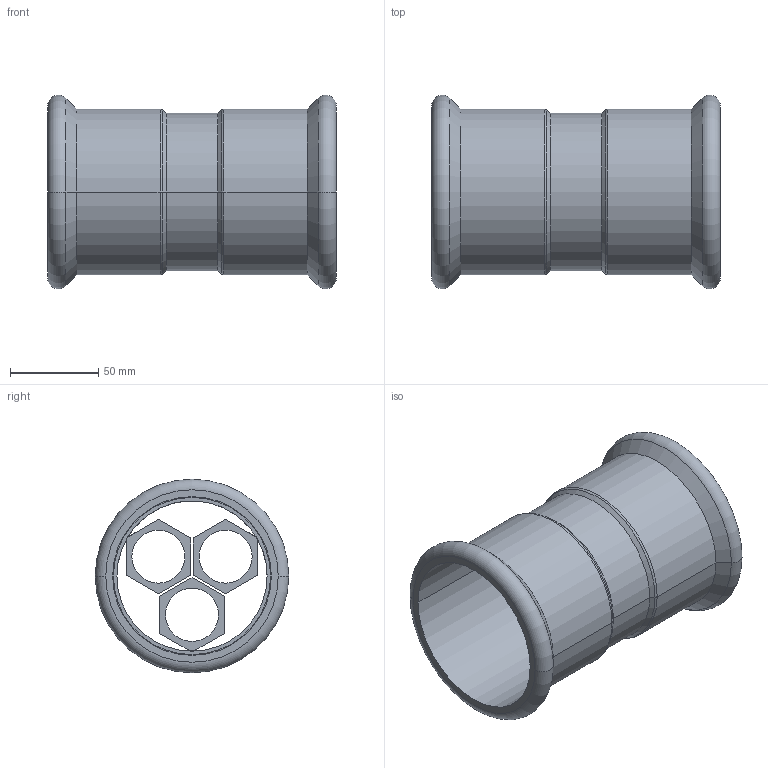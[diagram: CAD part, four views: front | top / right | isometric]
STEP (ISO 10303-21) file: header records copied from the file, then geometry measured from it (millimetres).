
FILE_DESCRIPTION(('OneSpaceDesigner STEP Export'),'2;1');
FILE_NAME('R2701 89x89.stp','2010-06-08T13:25:45',(''),(''),'OneSpace Designer STEP processor for AP214 (Solid Model)','OneSpace Modeling 15.00A 14-Mar-2007 (C) CoCreate Software GmbH','');
FILE_SCHEMA(('AUTOMOTIVE_DESIGN { 1 0 10303 214 1 1 1 1 }'));
Length unit declared in the file: millimetre
Products named in the file (2): R2701_89x89
Assembly tree (1 placements, depth 2):
  R2701_89x89
    R2701_89x89
Bounding box: 163 x 109.48 x 109.48 mm (x, y, z)
Volume: 163367.1 mm3; surface area: 113311.1 mm2
Topology: 1 solids, 1 shells, 110 faces, 276 edges, 178 vertices
Faces by surface type: plane 60, cylinder 34, cone 8, torus 8
Entity records: 2911 total; most frequent: ORIENTED_EDGE 552, CARTESIAN_POINT 474, DIRECTION 418, EDGE_CURVE 276, VERTEX_POINT 178, VECTOR 174, LINE 174, EDGE_LOOP 134
